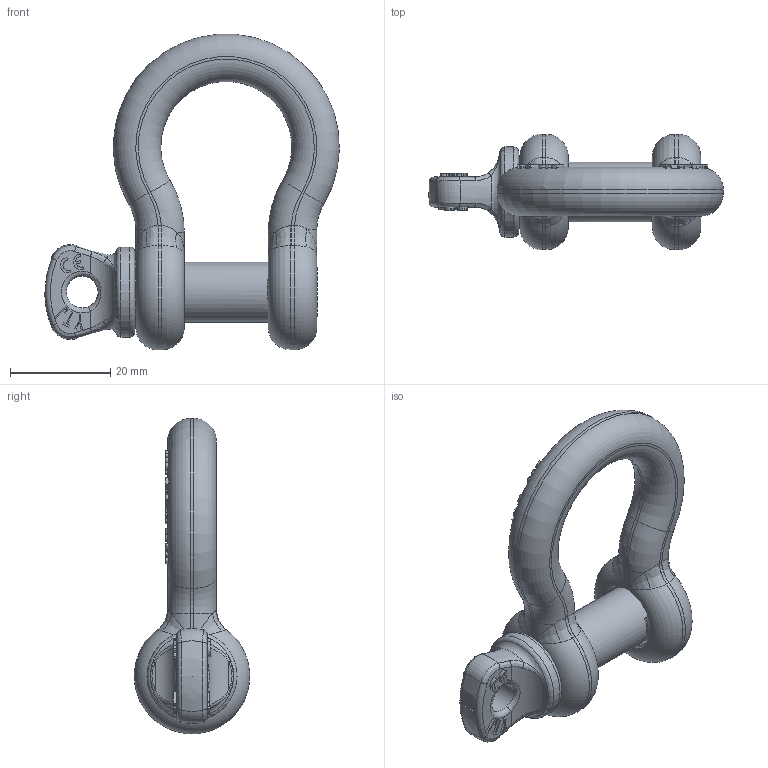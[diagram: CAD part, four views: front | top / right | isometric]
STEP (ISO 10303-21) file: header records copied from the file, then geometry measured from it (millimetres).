
FILE_DESCRIPTION(/* description */ (''),/* implementation_level */ '2;1');
FILE_NAME(/* name */ 'G-209A-3-8.stp',/* time_stamp */ '2025-04-08T08:26:04+08:00',/* author */ (''),/* organization */ (''),/* preprocessor_version */ 'ST-DEVELOPER v16',/* originating_system */ 'SIEMENS PLM Software NX 10.0',/* authorisation */ '');
FILE_SCHEMA (('AP203_CONFIGURATION_CONTROLLED_3D_DESIGN_OF_MECHANICAL_PARTS_AND_ASSEMBLIES_MIM_LF { 1 0 10303 403 2 1 2}'));
Length unit declared in the file: millimetre
Products named in the file (1): Admi20FC52B4dhrv
Bounding box: 58.89 x 23.04 x 63.03 mm (x, y, z)
Volume: 18018.7 mm3; surface area: 8554 mm2
Topology: 2 solids, 2 shells, 539 faces, 1493 edges, 964 vertices
Faces by surface type: plane 219, extrusion 156, cylinder 67, bspline 48, torus 40, cone 8, sphere 1
Full cylindrical faces by diameter (mm): 6.35 x1, 12 x4, 13 x1, 18 x1
Entity records: 21772 total; most frequent: CARTESIAN_POINT 9710, ORIENTED_EDGE 2882, DIRECTION 1760, EDGE_CURVE 1441, VERTEX_POINT 941, B_SPLINE_CURVE_WITH_KNOTS 891, VECTOR 622, AXIS2_PLACEMENT_3D 569
